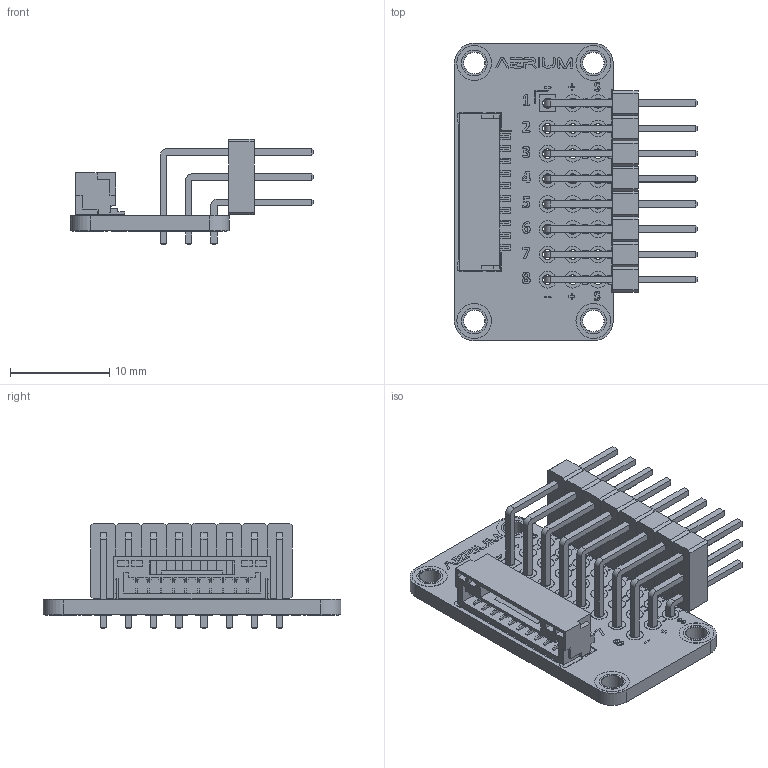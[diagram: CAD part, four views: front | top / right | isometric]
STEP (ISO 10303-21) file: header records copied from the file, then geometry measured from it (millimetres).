
FILE_DESCRIPTION(/* description */ ('KiCad electronic assembly'),/* implementation_level */ '2;1');
FILE_NAME(/* name */ 'Aerium_Servo_Dupont_3D_Model.step',/* time_stamp */ '2026-09-15T16:06:06+03:00',/* author */ (''),/* organization */ (''),/* preprocessor_version */ 'ST-DEVELOPER v20.1',/* originating_system */ 'Autodesk Translation Framework v15.8.0.0',/* authorisation */ '');
FILE_SCHEMA (('AUTOMOTIVE_DESIGN { 1 0 10303 214 3 1 1 }'));
Length unit declared in the file: millimetre
Products named in the file (7): 2026-09-15-13-00-18-726; 2026-09-15-13-00-18-727; 2026-09-15-13-00-18-728; 2026-09-15-13-00-18-729; 2026-09-15-13-00-18-730; 2026-09-15-13-00-18-731; 2026-09-15-13-00-18-732
Assembly tree (6 placements, depth 2):
  2026-09-15-13-00-18-726
    2026-09-15-13-00-18-727
    2026-09-15-13-00-18-728
    2026-09-15-13-00-18-729
    2026-09-15-13-00-18-730
    2026-09-15-13-00-18-731
    2026-09-15-13-00-18-732
Bounding box: 24.5 x 30 x 10.62 mm (x, y, z)
Volume: 1390.5 mm3; surface area: 4421.5 mm2
Topology: 138 solids, 200 shells, 1577 faces, 5122 edges, 3899 vertices
Faces by surface type: plane 1291, cylinder 286
Full cylindrical faces by diameter (mm): 0.95 x72, 1 x48, 1.7 x46, 2.15 x20, 2.2 x8, 2.6 x8, 3.5 x8
Entity records: 57932 total; most frequent: CARTESIAN_POINT 10612, DIRECTION 9085, ORIENTED_EDGE 8577, EDGE_CURVE 5122, LINE 4341, VECTOR 4341, VERTEX_POINT 3899, AXIS2_PLACEMENT_3D 2372
